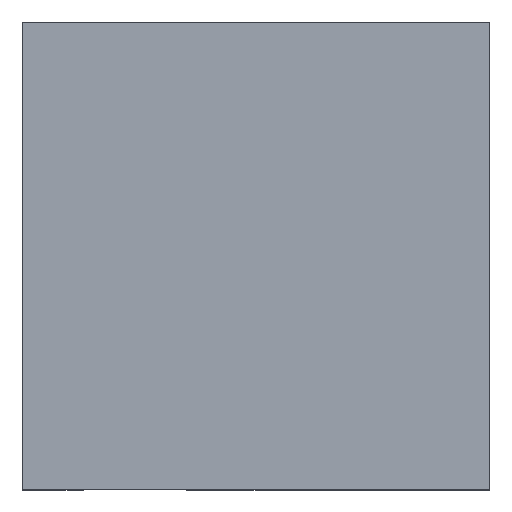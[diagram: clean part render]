
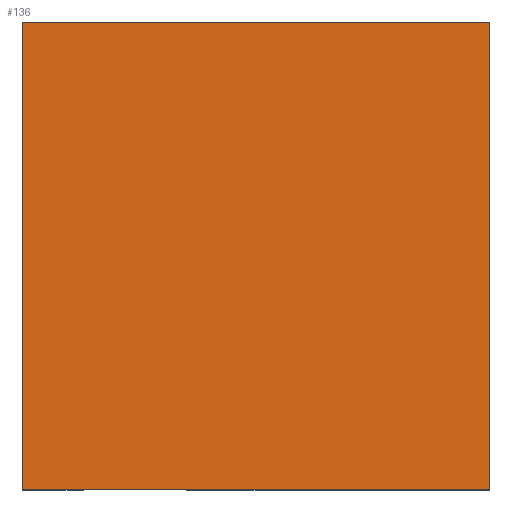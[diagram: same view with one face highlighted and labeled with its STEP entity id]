
A CAD part, top view. The second image highlights one B-rep face of the part: STEP entity #136.
In plain terms, the highlighted planar face has unit normal (0, 0, 1).
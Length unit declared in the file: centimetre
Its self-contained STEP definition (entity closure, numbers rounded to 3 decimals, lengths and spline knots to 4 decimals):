
#56 = VERTEX_POINT ( 'NONE', #622 ) ;
#61 = EDGE_CURVE ( 'NONE', #56, #671, #400, .T. ) ;
#65 = CARTESIAN_POINT ( 'NONE',  ( 0., 1000., 1000. ) ) ;
#68 = VERTEX_POINT ( 'NONE', #270 ) ;
#112 = DIRECTION ( 'NONE',  ( 0., -1., 0. ) ) ;
#121 = DIRECTION ( 'NONE',  ( 1., 0., 0. ) ) ;
#136 = ADVANCED_FACE ( 'NONE', ( #909 ), #754, .T. ) ;
#146 = EDGE_LOOP ( 'NONE', ( #424, #603, #357, #818 ) ) ;
#152 = AXIS2_PLACEMENT_3D ( 'NONE', #460, #550, #262 ) ;
#165 = CARTESIAN_POINT ( 'NONE',  ( 0., 1000., 1000. ) ) ;
#170 = CARTESIAN_POINT ( 'NONE',  ( 1000., 1000., 1000. ) ) ;
#258 = CARTESIAN_POINT ( 'NONE',  ( 0., 0., 1000. ) ) ;
#262 = DIRECTION ( 'NONE',  ( 1., 0., 0. ) ) ;
#270 = CARTESIAN_POINT ( 'NONE',  ( 0., 1000., 1000. ) ) ;
#274 = EDGE_CURVE ( 'NONE', #68, #56, #801, .T. ) ;
#278 = VERTEX_POINT ( 'NONE', #170 ) ;
#283 = VECTOR ( 'NONE', #112, 100. ) ;
#334 = LINE ( 'NONE', #683, #800 ) ;
#350 = LINE ( 'NONE', #65, #780 ) ;
#357 = ORIENTED_EDGE ( 'NONE', *, *, #394, .T. ) ;
#394 = EDGE_CURVE ( 'NONE', #671, #278, #334, .T. ) ;
#400 = LINE ( 'NONE', #258, #412 ) ;
#412 = VECTOR ( 'NONE', #121, 100. ) ;
#424 = ORIENTED_EDGE ( 'NONE', *, *, #274, .T. ) ;
#460 = CARTESIAN_POINT ( 'NONE',  ( 0., 0., 1000. ) ) ;
#550 = DIRECTION ( 'NONE',  ( 0., 0., 1. ) ) ;
#564 = DIRECTION ( 'NONE',  ( -1., 0., 0. ) ) ;
#603 = ORIENTED_EDGE ( 'NONE', *, *, #61, .T. ) ;
#622 = CARTESIAN_POINT ( 'NONE',  ( 0., 0., 1000. ) ) ;
#671 = VERTEX_POINT ( 'NONE', #762 ) ;
#679 = DIRECTION ( 'NONE',  ( 0., 1., 0. ) ) ;
#683 = CARTESIAN_POINT ( 'NONE',  ( 1000., 1000., 1000. ) ) ;
#754 = PLANE ( 'NONE',  #152 ) ;
#762 = CARTESIAN_POINT ( 'NONE',  ( 1000., 0., 1000. ) ) ;
#780 = VECTOR ( 'NONE', #564, 100. ) ;
#785 = EDGE_CURVE ( 'NONE', #278, #68, #350, .T. ) ;
#800 = VECTOR ( 'NONE', #679, 100. ) ;
#801 = LINE ( 'NONE', #165, #283 ) ;
#818 = ORIENTED_EDGE ( 'NONE', *, *, #785, .T. ) ;
#909 = FACE_OUTER_BOUND ( 'NONE', #146, .T. ) ;
